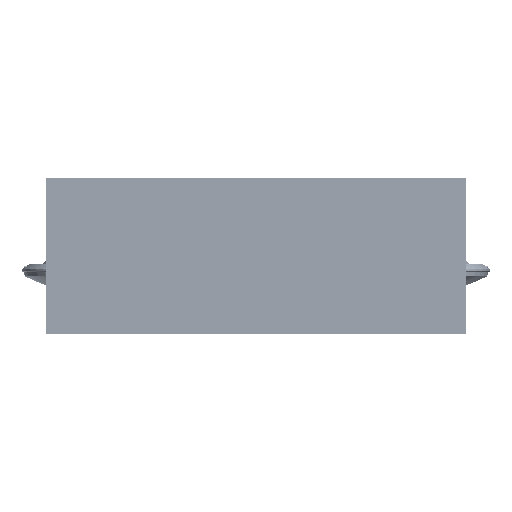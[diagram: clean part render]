
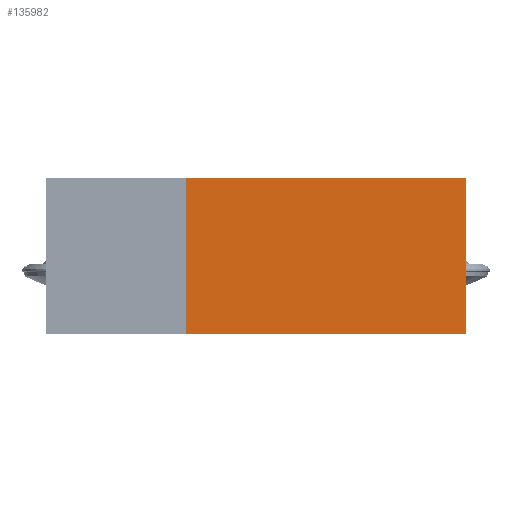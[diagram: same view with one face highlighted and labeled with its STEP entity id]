
A CAD part, top view. The second image highlights one B-rep face of the part: STEP entity #135982.
In plain terms, the highlighted planar face has unit normal (0, 0, 1).
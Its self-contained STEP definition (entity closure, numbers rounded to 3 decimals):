
#15594=PLANE('',#149459);
#19159=FACE_OUTER_BOUND('',#26926,.T.);
#26926=EDGE_LOOP('',(#96108,#96109,#96110,#96111));
#35571=LINE('',#213465,#45651);
#35573=LINE('',#213469,#45653);
#35574=LINE('',#213471,#45654);
#35575=LINE('',#213472,#45655);
#45651=VECTOR('',#166722,10.);
#45653=VECTOR('',#166726,10.);
#45654=VECTOR('',#166727,10.);
#45655=VECTOR('',#166728,10.);
#61689=VERTEX_POINT('',#213462);
#61690=VERTEX_POINT('',#213464);
#61691=VERTEX_POINT('',#213468);
#61692=VERTEX_POINT('',#213470);
#74992=EDGE_CURVE('',#61690,#61689,#35571,.T.);
#74994=EDGE_CURVE('',#61689,#61691,#35573,.T.);
#74995=EDGE_CURVE('',#61692,#61691,#35574,.T.);
#74996=EDGE_CURVE('',#61692,#61690,#35575,.T.);
#96108=ORIENTED_EDGE('',*,*,#74994,.T.);
#96109=ORIENTED_EDGE('',*,*,#74995,.F.);
#96110=ORIENTED_EDGE('',*,*,#74996,.T.);
#96111=ORIENTED_EDGE('',*,*,#74992,.T.);
#135982=ADVANCED_FACE('',(#19159),#15594,.T.);
#149459=AXIS2_PLACEMENT_3D('',#213467,#166724,#166725);
#166722=DIRECTION('',(0.,1.,0.));
#166724=DIRECTION('center_axis',(0.,0.,1.));
#166725=DIRECTION('ref_axis',(1.,0.,0.));
#166726=DIRECTION('',(-1.,0.,0.));
#166727=DIRECTION('',(0.,1.,0.));
#166728=DIRECTION('',(1.,0.,0.));
#213462=CARTESIAN_POINT('',(180.405,100.,100.));
#213464=CARTESIAN_POINT('',(180.405,-100.,100.));
#213465=CARTESIAN_POINT('',(180.405,-100.,100.));
#213467=CARTESIAN_POINT('Origin',(-180.405,-100.,100.));
#213468=CARTESIAN_POINT('',(-180.405,100.,100.));
#213469=CARTESIAN_POINT('',(-90.202,100.,100.));
#213470=CARTESIAN_POINT('',(-180.405,-100.,100.));
#213471=CARTESIAN_POINT('',(-180.405,-100.,100.));
#213472=CARTESIAN_POINT('',(90.202,-100.,100.));
